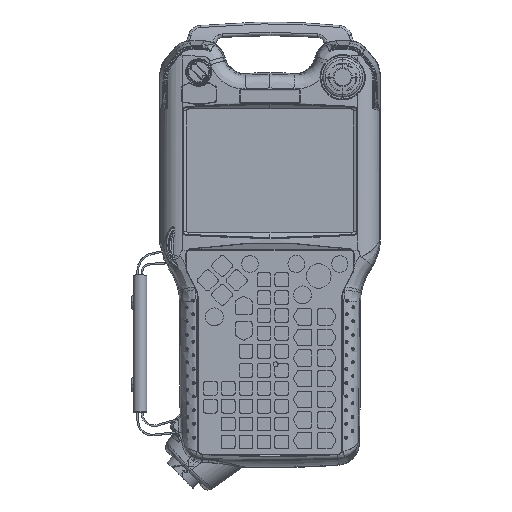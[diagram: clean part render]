
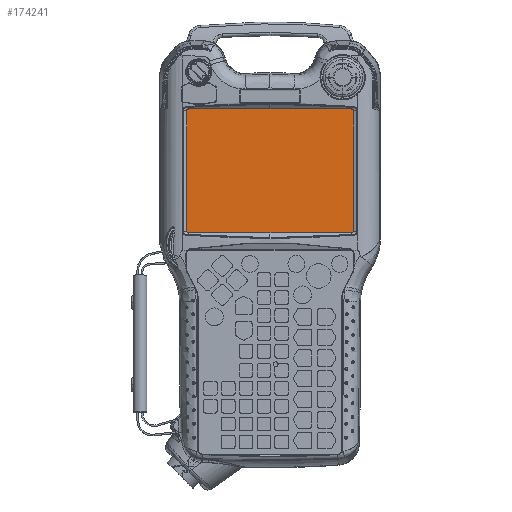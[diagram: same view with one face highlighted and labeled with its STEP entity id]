
A CAD part, top view. The second image highlights one B-rep face of the part: STEP entity #174241.
In plain terms, the highlighted planar face has unit normal (0, 0, 1).
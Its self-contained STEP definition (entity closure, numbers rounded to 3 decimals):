
#174118=CARTESIAN_POINT('Axis2P3D Location',(0.,0.,-13.)) ;
#174123=CARTESIAN_POINT('Line Origine',(181.875,-8.693,-13.)) ;
#174127=CARTESIAN_POINT('Vertex',(181.875,35.097,-13.)) ;
#174129=CARTESIAN_POINT('Vertex',(181.875,-52.484,-13.)) ;
#174133=CARTESIAN_POINT('Control Point',(181.875,-52.484,-13.)) ;
#174134=CARTESIAN_POINT('Control Point',(181.875,-52.647,-13.)) ;
#174135=CARTESIAN_POINT('Control Point',(181.901,-52.809,-13.)) ;
#174136=CARTESIAN_POINT('Control Point',(181.954,-52.964,-13.)) ;
#174137=CARTESIAN_POINT('Control Point',(182.12,-53.266,-13.)) ;
#174138=CARTESIAN_POINT('Control Point',(182.381,-53.507,-13.)) ;
#174139=CARTESIAN_POINT('Control Point',(182.539,-53.614,-13.)) ;
#174140=CARTESIAN_POINT('Control Point',(182.899,-53.796,-13.)) ;
#174141=CARTESIAN_POINT('Control Point',(183.302,-53.899,-13.)) ;
#174142=CARTESIAN_POINT('Control Point',(183.518,-53.932,-13.)) ;
#174143=CARTESIAN_POINT('Control Point',(183.736,-53.947,-13.)) ;
#174144=CARTESIAN_POINT('Control Point',(183.953,-53.947,-13.)) ;
#174145=CARTESIAN_POINT('Vertex',(183.953,-53.947,-13.)) ;
#174148=CARTESIAN_POINT('Line Origine',(213.372,-53.947,-13.)) ;
#174152=CARTESIAN_POINT('Vertex',(242.79,-53.947,-13.)) ;
#174155=CARTESIAN_POINT('Line Origine',(272.209,-53.947,-13.)) ;
#174159=CARTESIAN_POINT('Vertex',(301.627,-53.947,-13.)) ;
#174163=CARTESIAN_POINT('Control Point',(303.705,-52.484,-13.)) ;
#174164=CARTESIAN_POINT('Control Point',(303.705,-52.647,-13.)) ;
#174165=CARTESIAN_POINT('Control Point',(303.68,-52.809,-13.)) ;
#174166=CARTESIAN_POINT('Control Point',(303.627,-52.964,-13.)) ;
#174167=CARTESIAN_POINT('Control Point',(303.461,-53.266,-13.)) ;
#174168=CARTESIAN_POINT('Control Point',(303.199,-53.507,-13.)) ;
#174169=CARTESIAN_POINT('Control Point',(303.041,-53.614,-13.)) ;
#174170=CARTESIAN_POINT('Control Point',(302.681,-53.796,-13.)) ;
#174171=CARTESIAN_POINT('Control Point',(302.278,-53.899,-13.)) ;
#174172=CARTESIAN_POINT('Control Point',(302.062,-53.932,-13.)) ;
#174173=CARTESIAN_POINT('Control Point',(301.844,-53.947,-13.)) ;
#174174=CARTESIAN_POINT('Control Point',(301.627,-53.947,-13.)) ;
#174175=CARTESIAN_POINT('Vertex',(303.705,-52.484,-13.)) ;
#174178=CARTESIAN_POINT('Line Origine',(303.705,-8.693,-13.)) ;
#174182=CARTESIAN_POINT('Vertex',(303.705,35.097,-13.)) ;
#174186=CARTESIAN_POINT('Control Point',(303.705,35.097,-13.)) ;
#174187=CARTESIAN_POINT('Control Point',(303.704,35.26,-13.)) ;
#174188=CARTESIAN_POINT('Control Point',(303.678,35.422,-13.)) ;
#174189=CARTESIAN_POINT('Control Point',(303.624,35.576,-13.)) ;
#174190=CARTESIAN_POINT('Control Point',(303.456,35.878,-13.)) ;
#174191=CARTESIAN_POINT('Control Point',(303.192,36.118,-13.)) ;
#174192=CARTESIAN_POINT('Control Point',(303.033,36.224,-13.)) ;
#174193=CARTESIAN_POINT('Control Point',(302.673,36.404,-13.)) ;
#174194=CARTESIAN_POINT('Control Point',(302.272,36.505,-13.)) ;
#174195=CARTESIAN_POINT('Control Point',(302.058,36.538,-13.)) ;
#174196=CARTESIAN_POINT('Control Point',(301.842,36.553,-13.)) ;
#174197=CARTESIAN_POINT('Control Point',(301.627,36.553,-13.)) ;
#174198=CARTESIAN_POINT('Vertex',(301.627,36.553,-13.)) ;
#174201=CARTESIAN_POINT('Line Origine',(272.209,36.553,-13.)) ;
#174205=CARTESIAN_POINT('Vertex',(242.79,36.553,-13.)) ;
#174208=CARTESIAN_POINT('Line Origine',(213.372,36.553,-13.)) ;
#174212=CARTESIAN_POINT('Vertex',(183.953,36.553,-13.)) ;
#174216=CARTESIAN_POINT('Control Point',(181.875,35.097,-13.)) ;
#174217=CARTESIAN_POINT('Control Point',(181.876,35.261,-13.)) ;
#174218=CARTESIAN_POINT('Control Point',(181.903,35.422,-13.)) ;
#174219=CARTESIAN_POINT('Control Point',(181.957,35.576,-13.)) ;
#174220=CARTESIAN_POINT('Control Point',(182.125,35.878,-13.)) ;
#174221=CARTESIAN_POINT('Control Point',(182.388,36.118,-13.)) ;
#174222=CARTESIAN_POINT('Control Point',(182.547,36.224,-13.)) ;
#174223=CARTESIAN_POINT('Control Point',(182.907,36.404,-13.)) ;
#174224=CARTESIAN_POINT('Control Point',(183.308,36.505,-13.)) ;
#174225=CARTESIAN_POINT('Control Point',(183.522,36.538,-13.)) ;
#174226=CARTESIAN_POINT('Control Point',(183.738,36.553,-13.)) ;
#174227=CARTESIAN_POINT('Control Point',(183.953,36.553,-13.)) ;
#174119=DIRECTION('Axis2P3D Direction',(0.,-0.,1.)) ;
#174120=DIRECTION('Axis2P3D XDirection',(1.,0.,0.)) ;
#174124=DIRECTION('Vector Direction',(0.,-1.,0.)) ;
#174149=DIRECTION('Vector Direction',(-1.,0.,0.)) ;
#174156=DIRECTION('Vector Direction',(1.,0.,0.)) ;
#174179=DIRECTION('Vector Direction',(0.,-1.,0.)) ;
#174202=DIRECTION('Vector Direction',(-1.,0.,0.)) ;
#174209=DIRECTION('Vector Direction',(1.,0.,0.)) ;
#174121=AXIS2_PLACEMENT_3D('Plane Axis2P3D',#174118,#174119,#174120) ;
#174230=ORIENTED_EDGE('',*,*,#174131,.T.) ;
#174231=ORIENTED_EDGE('',*,*,#174147,.T.) ;
#174232=ORIENTED_EDGE('',*,*,#174154,.F.) ;
#174233=ORIENTED_EDGE('',*,*,#174161,.T.) ;
#174234=ORIENTED_EDGE('',*,*,#174177,.F.) ;
#174235=ORIENTED_EDGE('',*,*,#174184,.F.) ;
#174236=ORIENTED_EDGE('',*,*,#174200,.T.) ;
#174237=ORIENTED_EDGE('',*,*,#174207,.T.) ;
#174238=ORIENTED_EDGE('',*,*,#174214,.F.) ;
#174239=ORIENTED_EDGE('',*,*,#174228,.F.) ;
#174125=VECTOR('Line Direction',#174124,1.) ;
#174150=VECTOR('Line Direction',#174149,1.) ;
#174157=VECTOR('Line Direction',#174156,1.) ;
#174180=VECTOR('Line Direction',#174179,1.) ;
#174203=VECTOR('Line Direction',#174202,1.) ;
#174210=VECTOR('Line Direction',#174209,1.) ;
#174241=ADVANCED_FACE('\X2\FF8EFF9EFF83FF9EFF68FF70\X0\.110',(#174240),#174122,.T.) ;
#174132=B_SPLINE_CURVE_WITH_KNOTS('',5,(#174133,#174134,#174135,#174136,#174137,#174138,#174139,#174140,#174141,#174142,#174143,#174144),.UNSPECIFIED.,.F.,.U.,(6,3,3,6),(0.,1.242,2.619,4.125),.UNSPECIFIED.) ;
#174162=B_SPLINE_CURVE_WITH_KNOTS('',5,(#174163,#174164,#174165,#174166,#174167,#174168,#174169,#174170,#174171,#174172,#174173,#174174),.UNSPECIFIED.,.F.,.U.,(6,3,3,6),(0.,1.242,2.619,4.125),.UNSPECIFIED.) ;
#174185=B_SPLINE_CURVE_WITH_KNOTS('',5,(#174186,#174187,#174188,#174189,#174190,#174191,#174192,#174193,#174194,#174195,#174196,#174197),.UNSPECIFIED.,.F.,.U.,(6,3,3,6),(0.,1.242,2.621,4.113),.UNSPECIFIED.) ;
#174215=B_SPLINE_CURVE_WITH_KNOTS('',5,(#174216,#174217,#174218,#174219,#174220,#174221,#174222,#174223,#174224,#174225,#174226,#174227),.UNSPECIFIED.,.F.,.U.,(6,3,3,6),(0.,1.242,2.621,4.112),.UNSPECIFIED.) ;
#174131=EDGE_CURVE('',#174128,#174130,#174126,.T.) ;
#174147=EDGE_CURVE('',#174130,#174146,#174132,.T.) ;
#174154=EDGE_CURVE('',#174153,#174146,#174151,.T.) ;
#174161=EDGE_CURVE('',#174153,#174160,#174158,.T.) ;
#174177=EDGE_CURVE('',#174176,#174160,#174162,.T.) ;
#174184=EDGE_CURVE('',#174183,#174176,#174181,.T.) ;
#174200=EDGE_CURVE('',#174183,#174199,#174185,.T.) ;
#174207=EDGE_CURVE('',#174199,#174206,#174204,.T.) ;
#174214=EDGE_CURVE('',#174213,#174206,#174211,.T.) ;
#174228=EDGE_CURVE('',#174128,#174213,#174215,.T.) ;
#174229=EDGE_LOOP('',(#174230,#174231,#174232,#174233,#174234,#174235,#174236,#174237,#174238,#174239)) ;
#174240=FACE_OUTER_BOUND('',#174229,.T.) ;
#174126=LINE('Line',#174123,#174125) ;
#174151=LINE('Line',#174148,#174150) ;
#174158=LINE('Line',#174155,#174157) ;
#174181=LINE('Line',#174178,#174180) ;
#174204=LINE('Line',#174201,#174203) ;
#174211=LINE('Line',#174208,#174210) ;
#174122=PLANE('',#174121) ;
#174128=VERTEX_POINT('',#174127) ;
#174130=VERTEX_POINT('',#174129) ;
#174146=VERTEX_POINT('',#174145) ;
#174153=VERTEX_POINT('',#174152) ;
#174160=VERTEX_POINT('',#174159) ;
#174176=VERTEX_POINT('',#174175) ;
#174183=VERTEX_POINT('',#174182) ;
#174199=VERTEX_POINT('',#174198) ;
#174206=VERTEX_POINT('',#174205) ;
#174213=VERTEX_POINT('',#174212) ;
